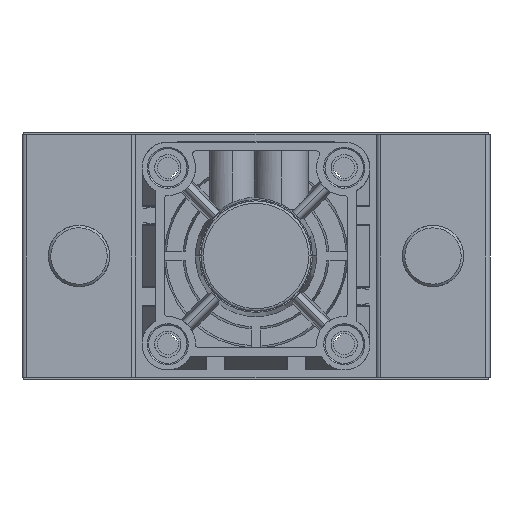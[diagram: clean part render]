
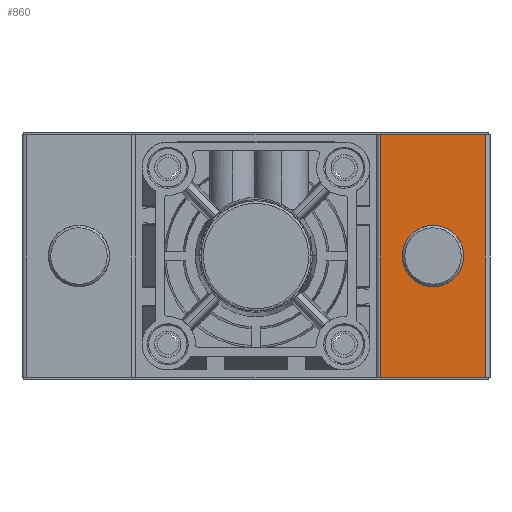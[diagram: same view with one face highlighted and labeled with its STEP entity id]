
A CAD part, front view. The second image highlights one B-rep face of the part: STEP entity #860.
In plain terms, the highlighted planar face has unit normal (0, -1, 0).
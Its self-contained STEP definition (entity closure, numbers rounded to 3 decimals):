
#860 = ADVANCED_FACE ( 'NONE', ( #6207, #15456 ), #6163, .F. ) ;
#2234 = VECTOR ( 'NONE', #21303, 1000. ) ;
#3656 = VERTEX_POINT ( 'NONE', #9707 ) ;
#3777 = DIRECTION ( 'NONE',  ( 1., 0., 0. ) ) ;
#4710 = CIRCLE ( 'NONE', #24493, 12.5 ) ;
#5218 = CARTESIAN_POINT ( 'NONE',  ( 167.75, -190., 49.5 ) ) ;
#5620 = CARTESIAN_POINT ( 'NONE',  ( 189., -190., 99. ) ) ;
#6092 = CARTESIAN_POINT ( 'NONE',  ( 189., -190., 99. ) ) ;
#6163 = PLANE ( 'NONE',  #45188 ) ;
#6207 = FACE_BOUND ( 'NONE', #42445, .T. ) ;
#9159 = DIRECTION ( 'NONE',  ( 0., 0., -1. ) ) ;
#9465 = VERTEX_POINT ( 'NONE', #44592 ) ;
#9707 = CARTESIAN_POINT ( 'NONE',  ( 167.75, -190., 37. ) ) ;
#10101 = CARTESIAN_POINT ( 'NONE',  ( 189., -190., 99. ) ) ;
#10315 = DIRECTION ( 'NONE',  ( 0., 0., -1. ) ) ;
#11481 = EDGE_LOOP ( 'NONE', ( #37489, #38592, #48303, #13023 ) ) ;
#11967 = VERTEX_POINT ( 'NONE', #48393 ) ;
#12477 = AXIS2_PLACEMENT_3D ( 'NONE', #5218, #32813, #9159 ) ;
#13023 = ORIENTED_EDGE ( 'NONE', *, *, #17664, .T. ) ;
#15456 = FACE_OUTER_BOUND ( 'NONE', #11481, .T. ) ;
#15484 = EDGE_CURVE ( 'NONE', #21532, #3656, #33174, .T. ) ;
#16443 = LINE ( 'NONE', #37797, #25713 ) ;
#17664 = EDGE_CURVE ( 'NONE', #29122, #24498, #16443, .T. ) ;
#18694 = CARTESIAN_POINT ( 'NONE',  ( 146.5, -190., 99. ) ) ;
#19864 = VECTOR ( 'NONE', #45425, 1000. ) ;
#20194 = EDGE_CURVE ( 'NONE', #3656, #21532, #4710, .T. ) ;
#20931 = CARTESIAN_POINT ( 'NONE',  ( 146.5, -190., 0. ) ) ;
#21303 = DIRECTION ( 'NONE',  ( 0., 0., -1. ) ) ;
#21532 = VERTEX_POINT ( 'NONE', #30653 ) ;
#23556 = ORIENTED_EDGE ( 'NONE', *, *, #20194, .F. ) ;
#23572 = CARTESIAN_POINT ( 'NONE',  ( 167.75, -190., 49.5 ) ) ;
#24493 = AXIS2_PLACEMENT_3D ( 'NONE', #23572, #51199, #27543 ) ;
#24498 = VERTEX_POINT ( 'NONE', #20931 ) ;
#24629 = EDGE_CURVE ( 'NONE', #29122, #9465, #40848, .T. ) ;
#25713 = VECTOR ( 'NONE', #10315, 1000. ) ;
#26069 = LINE ( 'NONE', #51067, #45832 ) ;
#27543 = DIRECTION ( 'NONE',  ( 0., 0., -1. ) ) ;
#29122 = VERTEX_POINT ( 'NONE', #18694 ) ;
#29817 = DIRECTION ( 'NONE',  ( 0., 1., 0. ) ) ;
#30653 = CARTESIAN_POINT ( 'NONE',  ( 167.75, -190., 62. ) ) ;
#32490 = LINE ( 'NONE', #5620, #2234 ) ;
#32813 = DIRECTION ( 'NONE',  ( 0., -1., 0. ) ) ;
#33174 = CIRCLE ( 'NONE', #12477, 12.5 ) ;
#37489 = ORIENTED_EDGE ( 'NONE', *, *, #50788, .T. ) ;
#37797 = CARTESIAN_POINT ( 'NONE',  ( 146.5, -190., 99. ) ) ;
#38592 = ORIENTED_EDGE ( 'NONE', *, *, #46737, .F. ) ;
#40848 = LINE ( 'NONE', #6092, #19864 ) ;
#41714 = DIRECTION ( 'NONE',  ( 0., 0., 1. ) ) ;
#42304 = ORIENTED_EDGE ( 'NONE', *, *, #15484, .F. ) ;
#42445 = EDGE_LOOP ( 'NONE', ( #23556, #42304 ) ) ;
#44592 = CARTESIAN_POINT ( 'NONE',  ( 189., -190., 99. ) ) ;
#45188 = AXIS2_PLACEMENT_3D ( 'NONE', #10101, #29817, #41714 ) ;
#45425 = DIRECTION ( 'NONE',  ( 1., 0., 0. ) ) ;
#45832 = VECTOR ( 'NONE', #3777, 1000. ) ;
#46737 = EDGE_CURVE ( 'NONE', #9465, #11967, #32490, .T. ) ;
#48303 = ORIENTED_EDGE ( 'NONE', *, *, #24629, .F. ) ;
#48393 = CARTESIAN_POINT ( 'NONE',  ( 189., -190., 0. ) ) ;
#50788 = EDGE_CURVE ( 'NONE', #24498, #11967, #26069, .T. ) ;
#51067 = CARTESIAN_POINT ( 'NONE',  ( 189., -190., 0. ) ) ;
#51199 = DIRECTION ( 'NONE',  ( 0., -1., 0. ) ) ;
